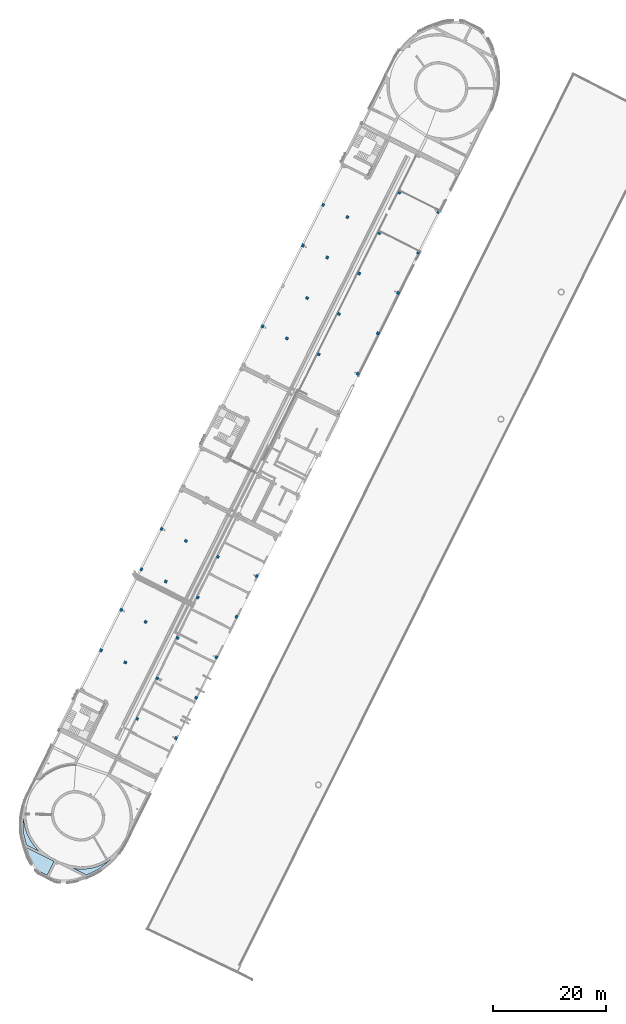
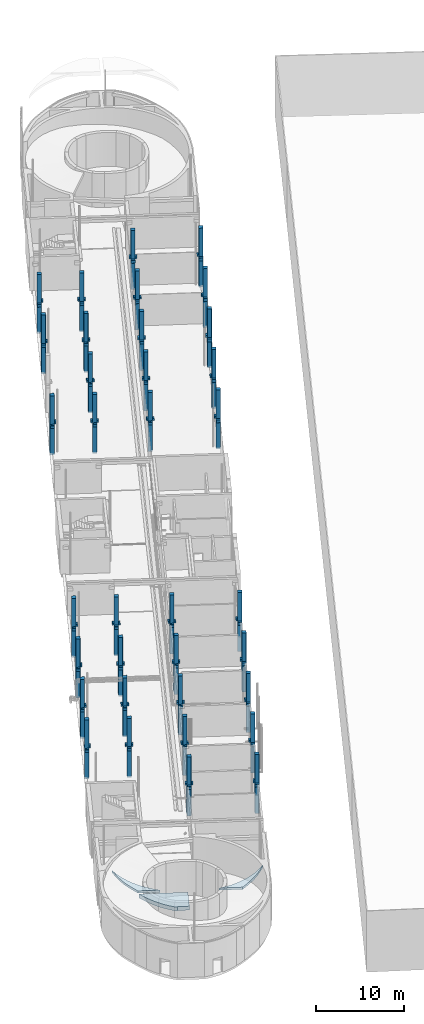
# One storey, part 1 of 91: 35 columns, 3 slabs.
"""IFC2X3 building model written with IfcOpenShell, lengths in metres."""

from ifc_helpers import new_model, entity, si_unit, converted_unit, derived_unit, direction, frame, frame_2d, origin, place, context, subcontext, project, spatial, polyline, circle_curve, parameter, trimmed, segment, composite_curve, outline, extrude, faceted_brep, source, transform, mapped, material, layer, layer_set, layer_usage, type_object, type_shapes, element, save


model = new_model("IFC2X3")

# Units and contexts
model_context = context("Model", 3, precision=1e-05, world=origin(), true_north=direction((0.894925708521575, 0.446215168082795)))
context_of_model = context(None, 3, precision=1e-05, world=origin(), true_north=direction((0.894925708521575, 0.446215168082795)))
body_context = subcontext(model_context, "Body", "Model", "MODEL_VIEW")
ifc_project = project(units=[si_unit("LENGTHUNIT", "METRE"), si_unit("AREAUNIT", "SQUARE_METRE"), si_unit("VOLUMEUNIT", "CUBIC_METRE"), converted_unit("PLANEANGLEUNIT", "DEGREE", entity("IfcRatioMeasure", 0.0174532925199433), si_unit("PLANEANGLEUNIT", "RADIAN"), dimensions=[0, 0, 0, 0, 0, 0, 0]), si_unit("MASSUNIT", "GRAM", prefix="KILO"), si_unit("TIMEUNIT", "SECOND"), si_unit("FREQUENCYUNIT", "HERTZ"), si_unit("THERMODYNAMICTEMPERATUREUNIT", "DEGREE_CELSIUS"), derived_unit("THERMALTRANSMITTANCEUNIT", [(si_unit("MASSUNIT", "GRAM", prefix="KILO"), 1), (si_unit("THERMODYNAMICTEMPERATUREUNIT", "KELVIN"), -1), (si_unit("TIMEUNIT", "SECOND"), -3)]), derived_unit("VOLUMETRICFLOWRATEUNIT", [(si_unit("LENGTHUNIT", "METRE"), 3), (si_unit("TIMEUNIT", "SECOND"), -1)]), si_unit("ELECTRICCURRENTUNIT", "AMPERE"), si_unit("ELECTRICVOLTAGEUNIT", "VOLT"), si_unit("POWERUNIT", "WATT"), si_unit("FORCEUNIT", "NEWTON", prefix="KILO"), si_unit("ILLUMINANCEUNIT", "LUX"), si_unit("LUMINOUSFLUXUNIT", "LUMEN"), si_unit("LUMINOUSINTENSITYUNIT", "CANDELA"), si_unit("PRESSUREUNIT", "PASCAL")], contexts=[model_context, context_of_model])

# Site, building, storey
site_placement = place(None, frame((218.228324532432, 584.720189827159, 0.0), z_axis=(0.0, 0.0, 1.0), x_axis=(0.446215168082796, 0.894925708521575, 0.0)))
site = spatial("IfcSite", under=ifc_project, at=site_placement, Name="Default", CompositionType="ELEMENT")
building_placement = place(site_placement, origin())
building = spatial("IfcBuilding", under=site, at=building_placement, CompositionType="ELEMENT")
storey_placement = place(building_placement, origin())
storey = spatial("IfcBuildingStorey", under=building, at=storey_placement, Name="0 - Piano Terra", CompositionType="ELEMENT", Elevation=0.0)

# Columns
ifc_material_1 = material(Name="Calcestruzzo - Calcestruzzo prefabbricato - 35 MPa")
column_type_1 = type_object("IfcColumnType", Name="500x500-1 livello centrale", PredefinedType="COLUMN", material=ifc_material_1)
shared_shape_1 = source(origin(), body_context, "Body", "Brep", [
    faceted_brep([(-0.535000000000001, 0.234999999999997, 4.03), (-0.249999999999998, 0.234999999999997, 4.03), (-0.249999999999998, 0.234999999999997, 3.63000000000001), (-0.535000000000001, 0.234999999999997, 3.63000000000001), (-0.550000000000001, 0.234999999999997, 3.64500000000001), (-0.550000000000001, 0.234999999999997, 4.01500000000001), (-0.535000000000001, -0.235000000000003, 4.03), (-0.550000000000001, -0.235000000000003, 4.01500000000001), (-0.550000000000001, -0.235000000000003, 3.64500000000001), (-0.535000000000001, -0.235000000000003, 3.63000000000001), (-0.249999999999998, -0.235000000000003, 3.63000000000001), (-0.249999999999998, -0.235000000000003, 4.03)], [[[0, 1, 2, 3, 4, 5]], [[6, 7, 8, 9, 10, 11]], [[1, 0, 6, 11]], [[2, 1, 11, 10]], [[3, 2, 10, 9]], [[4, 3, 9, 8]], [[5, 4, 8, 7]], [[0, 5, 7, 6]]]),
    faceted_brep([(-0.234999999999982, -0.435000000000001, 4.29), (-0.234999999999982, -0.249999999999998, 4.29), (-0.234999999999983, -0.249999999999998, 4.03), (-0.234999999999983, -0.435000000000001, 4.03), (-0.234999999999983, -0.450000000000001, 4.045), (-0.234999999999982, -0.450000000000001, 4.275), (0.235000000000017, -0.435000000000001, 4.29), (0.235000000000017, -0.450000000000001, 4.275), (0.235000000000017, -0.450000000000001, 4.045), (0.235000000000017, -0.435000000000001, 4.03), (0.235000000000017, -0.249999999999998, 4.03), (0.235000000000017, -0.249999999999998, 4.29)], [[[0, 1, 2, 3, 4, 5]], [[6, 7, 8, 9, 10, 11]], [[1, 0, 6, 11]], [[2, 1, 11, 10]], [[3, 2, 10, 9]], [[4, 3, 9, 8]], [[5, 4, 8, 7]], [[0, 5, 7, 6]]]),
    faceted_brep([(0.234999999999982, 0.435000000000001, 4.29), (0.234999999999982, 0.249999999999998, 4.29), (0.234999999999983, 0.249999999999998, 4.03000000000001), (0.234999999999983, 0.435000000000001, 4.03000000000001), (0.234999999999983, 0.450000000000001, 4.04500000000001), (0.234999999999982, 0.450000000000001, 4.27500000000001), (-0.235000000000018, 0.435000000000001, 4.29), (-0.235000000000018, 0.450000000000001, 4.275), (-0.235000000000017, 0.450000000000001, 4.04500000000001), (-0.235000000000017, 0.435000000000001, 4.03000000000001), (-0.235000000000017, 0.249999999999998, 4.03000000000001), (-0.235000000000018, 0.249999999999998, 4.29)], [[[0, 1, 2, 3, 4, 5]], [[6, 7, 8, 9, 10, 11]], [[1, 0, 6, 11]], [[2, 1, 11, 10]], [[3, 2, 10, 9]], [[4, 3, 9, 8]], [[5, 4, 8, 7]], [[0, 5, 7, 6]]]),
    faceted_brep([(0.535000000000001, -0.234999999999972, 4.03), (0.249999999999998, -0.234999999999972, 4.03), (0.249999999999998, -0.234999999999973, 3.63), (0.535000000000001, -0.234999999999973, 3.63), (0.550000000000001, -0.234999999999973, 3.645), (0.550000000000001, -0.234999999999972, 4.015), (0.535000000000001, 0.235000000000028, 4.03), (0.550000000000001, 0.235000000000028, 4.015), (0.550000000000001, 0.235000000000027, 3.645), (0.535000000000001, 0.235000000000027, 3.63), (0.249999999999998, 0.235000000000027, 3.63), (0.249999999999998, 0.235000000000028, 4.03)], [[[0, 1, 2, 3, 4, 5]], [[6, 7, 8, 9, 10, 11]], [[1, 0, 6, 11]], [[2, 1, 11, 10]], [[3, 2, 10, 9]], [[4, 3, 9, 8]], [[5, 4, 8, 7]], [[0, 5, 7, 6]]]),
    faceted_brep([(0.235000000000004, 0.25, 7.95), (-0.234999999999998, 0.25, 7.95), (-0.25, 0.234999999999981, 7.95), (-0.25, -0.234999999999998, 7.95), (-0.234999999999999, -0.25, 7.95), (0.235, -0.25, 7.95), (0.25, -0.234999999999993, 7.95), (0.25, 0.234999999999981, 7.95), (0.235000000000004, 0.25, -0.2), (0.25, 0.234999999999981, -0.2), (0.25, -0.234999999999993, -0.2), (0.235, -0.25, -0.2), (-0.234999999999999, -0.25, -0.2), (-0.25, -0.234999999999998, -0.2), (-0.25, 0.234999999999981, -0.2), (-0.234999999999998, 0.25, -0.2)], [[[0, 1, 2, 3, 4, 5, 6, 7]], [[8, 9, 10, 11, 12, 13, 14, 15]], [[1, 0, 8, 15]], [[2, 1, 15, 14]], [[3, 2, 14, 13]], [[4, 3, 13, 12]], [[5, 4, 12, 11]], [[6, 5, 11, 10]], [[7, 6, 10, 9]], [[0, 7, 9, 8]]]),
])
type_shapes(column_type_1, [shared_shape_1])
for number, where, name in (
    (1, (-44.8506659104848, 1.04892100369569, 0.0), "Prefabbricati-Pilastro rettangolare con modiglioni a più strati:500x500-1 livello centrale"),
    (2, (-36.847852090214, 1.04892100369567, 0.0), "Prefabbricati-Pilastro rettangolare con modiglioni a più strati:500x500-1 livello centrale"),
    (3, (-28.8422204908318, 1.04892100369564, 0.0), "Prefabbricati-Pilastro rettangolare con modiglioni a più strati:500x500-1 livello centrale"),
    (4, (-20.8386212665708, 1.04892100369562, 0.0), "Prefabbricati-Pilastro rettangolare con modiglioni a più strati:500x500-1 livello centrale"),
    (5, (19.1758295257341, 1.04892100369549, 0.0), "Prefabbricati-Pilastro rettangolare con modiglioni a più strati:500x500-1 livello centrale"),
    (6, (27.1690451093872, 1.04892100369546, 0.0), "Prefabbricati-Pilastro rettangolare con modiglioni a più strati:500x500-1 livello centrale"),
    (7, (35.1664961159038, 1.04892100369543, 0.0), "Prefabbricati-Pilastro rettangolare con modiglioni a più strati:500x500-1 livello centrale"),
    (8, (43.1596023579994, 1.04892100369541, 0.0), "Prefabbricati-Pilastro rettangolare con modiglioni a più strati:500x500-1 livello centrale"),
):
    element("IfcColumn", number, at=place(storey_placement, frame(where)), inside=storey, type_object=column_type_1, material=ifc_material_1, Name=name, ObjectType="500x500-1 livello centrale", context=body_context, shape_type="MappedRepresentation", body=[
        mapped(shared_shape_1, transform((0.0, 0.0, 0.0), scale=1.0)),
    ])
column_type_2 = type_object("IfcColumnType", Name="520x500-1 livello laterale", PredefinedType="COLUMN", material=ifc_material_1)
shared_shape_2 = source(origin(), body_context, "Body", "Brep", [
    faceted_brep([(-0.545000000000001, -0.234999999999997, 4.03), (-0.560000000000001, -0.234999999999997, 4.01500000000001), (-0.560000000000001, -0.234999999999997, 3.64500000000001), (-0.545000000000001, -0.234999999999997, 3.63000000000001), (-0.259999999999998, -0.234999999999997, 3.63000000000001), (-0.259999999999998, -0.234999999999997, 4.03), (-0.545000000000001, 0.235000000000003, 4.03), (-0.560000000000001, 0.235000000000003, 4.01500000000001), (-0.259999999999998, 0.235000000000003, 4.03), (-0.259999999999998, 0.235000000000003, 3.63000000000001), (-0.545000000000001, 0.235000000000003, 3.63000000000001), (-0.560000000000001, 0.235000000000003, 3.64500000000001)], [[[0, 1, 2, 3, 4, 5]], [[0, 6, 7, 1]], [[6, 8, 9, 10, 11, 7]], [[5, 8, 6, 0]], [[4, 9, 8, 5]], [[3, 10, 9, 4]], [[2, 11, 10, 3]], [[1, 7, 11, 2]]]),
    faceted_brep([(0.244999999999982, -0.435000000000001, 4.29), (0.244999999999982, -0.450000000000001, 4.27500000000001), (0.244999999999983, -0.450000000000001, 4.04500000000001), (0.244999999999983, -0.435000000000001, 4.03000000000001), (0.244999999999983, -0.249999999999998, 4.03000000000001), (0.244999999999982, -0.249999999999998, 4.29), (-0.245000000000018, -0.435000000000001, 4.29), (-0.245000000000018, -0.249999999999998, 4.29), (-0.245000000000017, -0.249999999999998, 4.03000000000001), (-0.245000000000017, -0.435000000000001, 4.03000000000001), (-0.245000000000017, -0.450000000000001, 4.04500000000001), (-0.245000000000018, -0.450000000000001, 4.275)], [[[0, 1, 2, 3, 4, 5]], [[6, 7, 8, 9, 10, 11]], [[5, 7, 6, 0]], [[4, 8, 7, 5]], [[3, 9, 8, 4]], [[2, 10, 9, 3]], [[1, 11, 10, 2]], [[0, 6, 11, 1]]]),
    faceted_brep([(0.545000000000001, 0.234999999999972, 4.03), (0.560000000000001, 0.234999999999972, 4.015), (0.560000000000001, 0.234999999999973, 3.645), (0.545000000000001, 0.234999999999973, 3.63), (0.259999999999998, 0.234999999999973, 3.63), (0.259999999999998, 0.234999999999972, 4.03), (0.545000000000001, -0.235000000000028, 4.03), (0.560000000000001, -0.235000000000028, 4.015), (0.259999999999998, -0.235000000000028, 4.03), (0.259999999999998, -0.235000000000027, 3.63), (0.545000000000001, -0.235000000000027, 3.63), (0.560000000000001, -0.235000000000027, 3.645)], [[[0, 1, 2, 3, 4, 5]], [[0, 6, 7, 1]], [[6, 8, 9, 10, 11, 7]], [[5, 8, 6, 0]], [[4, 9, 8, 5]], [[3, 10, 9, 4]], [[2, 11, 10, 3]], [[1, 7, 11, 2]]]),
    faceted_brep([(0.245000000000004, -0.25, 7.95), (0.26, -0.234999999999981, 7.95), (0.26, 0.234999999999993, 7.95), (0.245000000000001, 0.25, 7.95), (-0.244999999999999, 0.25, 7.95), (-0.26, 0.234999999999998, 7.95), (-0.26, -0.234999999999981, 7.95), (-0.244999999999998, -0.25, 7.95), (0.245000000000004, -0.25, -0.2), (-0.244999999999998, -0.25, -0.2), (-0.26, -0.234999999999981, -0.2), (-0.26, 0.234999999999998, -0.2), (-0.244999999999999, 0.25, -0.2), (0.245000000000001, 0.25, -0.2), (0.26, 0.234999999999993, -0.2), (0.26, -0.234999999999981, -0.2)], [[[0, 1, 2, 3, 4, 5, 6, 7]], [[8, 9, 10, 11, 12, 13, 14, 15]], [[7, 9, 8, 0]], [[6, 10, 9, 7]], [[5, 11, 10, 6]], [[4, 12, 11, 5]], [[3, 13, 12, 4]], [[2, 14, 13, 3]], [[1, 15, 14, 2]], [[0, 8, 15, 1]]]),
])
type_shapes(column_type_2, [shared_shape_2])
for number, where, name in (
    (9, (-44.8506659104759, 5.86892100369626, 0.0), "Prefabbricati-Pilastro rettangolare con modiglioni a più strati:520x500-1 livello laterale"),
    (10, (-36.8478520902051, 5.86892100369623, 0.0), "Prefabbricati-Pilastro rettangolare con modiglioni a più strati:520x500-1 livello laterale"),
    (11, (-28.8422204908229, 5.86892100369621, 0.0), "Prefabbricati-Pilastro rettangolare con modiglioni a più strati:520x500-1 livello laterale"),
    (12, (-20.8386212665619, 5.86892100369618, 0.0), "Prefabbricati-Pilastro rettangolare con modiglioni a più strati:520x500-1 livello laterale"),
    (13, (19.1758295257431, 5.86892100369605, 0.0), "Prefabbricati-Pilastro rettangolare con modiglioni a più strati:520x500-1 livello laterale"),
    (14, (35.1664961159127, 5.868921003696, 0.0), "Prefabbricati-Pilastro rettangolare con modiglioni a più strati:520x500-1 livello laterale"),
    (15, (43.1596023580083, 5.86892100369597, 0.0), "Prefabbricati-Pilastro rettangolare con modiglioni a più strati:520x500-1 livello laterale"),
):
    element("IfcColumn", number, at=place(storey_placement, frame(where)), inside=storey, type_object=column_type_2, material=ifc_material_1, Name=name, ObjectType="520x500-1 livello laterale", context=body_context, shape_type="MappedRepresentation", body=[
        mapped(shared_shape_2, transform((0.0, 0.0, 0.0), scale=1.0)),
    ])
column_type_3 = type_object("IfcColumnType", Name="520x500-1 livello laterale", PredefinedType="COLUMN", material=ifc_material_1)
shared_shape_3 = source(origin(), body_context, "Body", "Brep", [
    faceted_brep([(-0.545000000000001, 0.234999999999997, 4.03), (-0.259999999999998, 0.234999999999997, 4.03), (-0.259999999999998, 0.234999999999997, 3.63000000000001), (-0.545000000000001, 0.234999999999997, 3.63000000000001), (-0.560000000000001, 0.234999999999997, 3.64500000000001), (-0.560000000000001, 0.234999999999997, 4.01500000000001), (-0.560000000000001, -0.235000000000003, 4.01500000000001), (-0.545000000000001, -0.235000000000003, 4.03), (-0.560000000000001, -0.235000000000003, 3.64500000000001), (-0.545000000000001, -0.235000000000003, 3.63000000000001), (-0.259999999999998, -0.235000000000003, 3.63000000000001), (-0.259999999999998, -0.235000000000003, 4.03)], [[[0, 1, 2, 3, 4, 5]], [[0, 5, 6, 7]], [[7, 6, 8, 9, 10, 11]], [[1, 0, 7, 11]], [[2, 1, 11, 10]], [[3, 2, 10, 9]], [[4, 3, 9, 8]], [[5, 4, 8, 6]]]),
    faceted_brep([(0.244999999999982, 0.435000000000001, 4.29), (0.244999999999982, 0.249999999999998, 4.29), (0.244999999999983, 0.249999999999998, 4.03000000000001), (0.244999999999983, 0.435000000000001, 4.03000000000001), (0.244999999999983, 0.450000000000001, 4.04500000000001), (0.244999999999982, 0.450000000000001, 4.27500000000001), (-0.245000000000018, 0.435000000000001, 4.29), (-0.245000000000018, 0.450000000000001, 4.275), (-0.245000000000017, 0.450000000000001, 4.04500000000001), (-0.245000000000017, 0.435000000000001, 4.03000000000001), (-0.245000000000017, 0.249999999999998, 4.03000000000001), (-0.245000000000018, 0.249999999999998, 4.29)], [[[0, 1, 2, 3, 4, 5]], [[6, 7, 8, 9, 10, 11]], [[1, 0, 6, 11]], [[2, 1, 11, 10]], [[3, 2, 10, 9]], [[4, 3, 9, 8]], [[5, 4, 8, 7]], [[0, 5, 7, 6]]]),
    faceted_brep([(0.545000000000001, -0.234999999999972, 4.03), (0.259999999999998, -0.234999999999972, 4.03), (0.259999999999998, -0.234999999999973, 3.63), (0.545000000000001, -0.234999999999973, 3.63), (0.560000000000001, -0.234999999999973, 3.645), (0.560000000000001, -0.234999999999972, 4.015), (0.560000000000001, 0.235000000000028, 4.015), (0.545000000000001, 0.235000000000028, 4.03), (0.560000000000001, 0.235000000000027, 3.645), (0.545000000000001, 0.235000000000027, 3.63), (0.259999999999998, 0.235000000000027, 3.63), (0.259999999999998, 0.235000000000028, 4.03)], [[[0, 1, 2, 3, 4, 5]], [[0, 5, 6, 7]], [[7, 6, 8, 9, 10, 11]], [[1, 0, 7, 11]], [[2, 1, 11, 10]], [[3, 2, 10, 9]], [[4, 3, 9, 8]], [[5, 4, 8, 6]]]),
    faceted_brep([(0.245000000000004, 0.25, 7.95), (-0.244999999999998, 0.25, 7.95), (-0.26, 0.234999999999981, 7.95), (-0.26, -0.234999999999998, 7.95), (-0.244999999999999, -0.25, 7.95), (0.245000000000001, -0.25, 7.95), (0.26, -0.234999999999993, 7.95), (0.26, 0.234999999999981, 7.95), (0.245000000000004, 0.25, -0.2), (0.26, 0.234999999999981, -0.2), (0.26, -0.234999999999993, -0.2), (0.245000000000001, -0.25, -0.2), (-0.244999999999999, -0.25, -0.2), (-0.26, -0.234999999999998, -0.2), (-0.26, 0.234999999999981, -0.2), (-0.244999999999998, 0.25, -0.2)], [[[0, 1, 2, 3, 4, 5, 6, 7]], [[8, 9, 10, 11, 12, 13, 14, 15]], [[1, 0, 8, 15]], [[2, 1, 15, 14]], [[3, 2, 14, 13]], [[4, 3, 13, 12]], [[5, 4, 12, 11]], [[6, 5, 11, 10]], [[7, 6, 10, 9]], [[0, 7, 9, 8]]]),
])
type_shapes(column_type_3, [shared_shape_3])
for number, where, name in (
    (16, (-44.8506659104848, -12.9510789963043, 0.0), "Prefabbricati-Pilastro rettangolare con modiglioni a più strati:520x500-1 livello laterale"),
    (17, (-52.8437614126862, -12.9510789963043, 0.0), "Prefabbricati-Pilastro rettangolare con modiglioni a più strati:520x500-1 livello laterale"),
    (18, (-36.8478520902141, -12.9510789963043, 0.0), "Prefabbricati-Pilastro rettangolare con modiglioni a più strati:520x500-1 livello laterale"),
    (19, (-28.8422204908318, -12.9510789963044, 0.0), "Prefabbricati-Pilastro rettangolare con modiglioni a più strati:520x500-1 livello laterale"),
    (20, (-20.8386212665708, -12.9510789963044, 0.0), "Prefabbricati-Pilastro rettangolare con modiglioni a più strati:520x500-1 livello laterale"),
    (21, (19.1758295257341, -12.9510789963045, 0.0), "Prefabbricati-Pilastro rettangolare con modiglioni a più strati:520x500-1 livello laterale"),
    (22, (27.1690451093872, -12.9510789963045, 0.0), "Prefabbricati-Pilastro rettangolare con modiglioni a più strati:520x500-1 livello laterale"),
    (23, (35.1664961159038, -12.9510789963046, 0.0), "Prefabbricati-Pilastro rettangolare con modiglioni a più strati:520x500-1 livello laterale"),
    (24, (43.1596023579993, -12.9510789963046, 0.0), "Prefabbricati-Pilastro rettangolare con modiglioni a più strati:520x500-1 livello laterale"),
    (25, (51.1583430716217, -12.9510789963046, 0.0), "Prefabbricati-Pilastro rettangolare con modiglioni a più strati:520x500-1 livello laterale"),
):
    element("IfcColumn", number, at=place(storey_placement, frame(where)), inside=storey, type_object=column_type_3, material=ifc_material_1, Name=name, ObjectType="520x500-1 livello laterale", context=body_context, shape_type="MappedRepresentation", body=[
        mapped(shared_shape_3, transform((0.0, 0.0, 0.0), scale=1.0)),
    ])
column_type_4 = type_object("IfcColumnType", Name="500x500-1 livello centrale", PredefinedType="COLUMN", material=ifc_material_1)
shared_shape_4 = source(origin(), body_context, "Body", "Brep", [
    faceted_brep([(-0.535000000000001, -0.234999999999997, 4.03), (-0.550000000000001, -0.234999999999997, 4.01500000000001), (-0.550000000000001, -0.234999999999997, 3.64500000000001), (-0.535000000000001, -0.234999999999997, 3.63000000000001), (-0.249999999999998, -0.234999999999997, 3.63000000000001), (-0.249999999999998, -0.234999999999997, 4.03), (-0.535000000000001, 0.235000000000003, 4.03), (-0.249999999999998, 0.235000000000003, 4.03), (-0.249999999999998, 0.235000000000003, 3.63000000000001), (-0.535000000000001, 0.235000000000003, 3.63000000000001), (-0.550000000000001, 0.235000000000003, 3.64500000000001), (-0.550000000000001, 0.235000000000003, 4.01500000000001)], [[[0, 1, 2, 3, 4, 5]], [[6, 7, 8, 9, 10, 11]], [[5, 7, 6, 0]], [[4, 8, 7, 5]], [[3, 9, 8, 4]], [[2, 10, 9, 3]], [[1, 11, 10, 2]], [[0, 6, 11, 1]]]),
    faceted_brep([(-0.234999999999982, 0.435000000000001, 4.29), (-0.234999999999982, 0.450000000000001, 4.275), (-0.234999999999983, 0.450000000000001, 4.045), (-0.234999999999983, 0.435000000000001, 4.03), (-0.234999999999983, 0.249999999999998, 4.03), (-0.234999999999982, 0.249999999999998, 4.29), (0.235000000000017, 0.435000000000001, 4.29), (0.235000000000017, 0.249999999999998, 4.29), (0.235000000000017, 0.249999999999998, 4.03), (0.235000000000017, 0.435000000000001, 4.03), (0.235000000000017, 0.450000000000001, 4.045), (0.235000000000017, 0.450000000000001, 4.275)], [[[0, 1, 2, 3, 4, 5]], [[6, 7, 8, 9, 10, 11]], [[5, 7, 6, 0]], [[4, 8, 7, 5]], [[3, 9, 8, 4]], [[2, 10, 9, 3]], [[1, 11, 10, 2]], [[0, 6, 11, 1]]]),
    faceted_brep([(0.234999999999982, -0.435000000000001, 4.29), (0.234999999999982, -0.450000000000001, 4.27500000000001), (0.234999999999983, -0.450000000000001, 4.04500000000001), (0.234999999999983, -0.435000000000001, 4.03000000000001), (0.234999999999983, -0.249999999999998, 4.03000000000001), (0.234999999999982, -0.249999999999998, 4.29), (-0.235000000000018, -0.435000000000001, 4.29), (-0.235000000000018, -0.249999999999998, 4.29), (-0.235000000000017, -0.249999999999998, 4.03000000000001), (-0.235000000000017, -0.435000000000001, 4.03000000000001), (-0.235000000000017, -0.450000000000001, 4.04500000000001), (-0.235000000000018, -0.450000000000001, 4.275)], [[[0, 1, 2, 3, 4, 5]], [[6, 7, 8, 9, 10, 11]], [[5, 7, 6, 0]], [[4, 8, 7, 5]], [[3, 9, 8, 4]], [[2, 10, 9, 3]], [[1, 11, 10, 2]], [[0, 6, 11, 1]]]),
    faceted_brep([(0.535000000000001, 0.234999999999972, 4.03), (0.550000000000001, 0.234999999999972, 4.015), (0.550000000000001, 0.234999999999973, 3.645), (0.535000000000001, 0.234999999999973, 3.63), (0.249999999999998, 0.234999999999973, 3.63), (0.249999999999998, 0.234999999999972, 4.03), (0.535000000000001, -0.235000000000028, 4.03), (0.249999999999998, -0.235000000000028, 4.03), (0.249999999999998, -0.235000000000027, 3.63), (0.535000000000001, -0.235000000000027, 3.63), (0.550000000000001, -0.235000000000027, 3.645), (0.550000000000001, -0.235000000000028, 4.015)], [[[0, 1, 2, 3, 4, 5]], [[6, 7, 8, 9, 10, 11]], [[5, 7, 6, 0]], [[4, 8, 7, 5]], [[3, 9, 8, 4]], [[2, 10, 9, 3]], [[1, 11, 10, 2]], [[0, 6, 11, 1]]]),
    faceted_brep([(0.235000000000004, -0.25, 7.95), (0.25, -0.234999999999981, 7.95), (0.25, 0.234999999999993, 7.95), (0.235, 0.25, 7.95), (-0.234999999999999, 0.25, 7.95), (-0.25, 0.234999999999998, 7.95), (-0.25, -0.234999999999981, 7.95), (-0.234999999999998, -0.25, 7.95), (0.235000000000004, -0.25, -0.2), (-0.234999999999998, -0.25, -0.2), (-0.25, -0.234999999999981, -0.2), (-0.25, 0.234999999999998, -0.2), (-0.234999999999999, 0.25, -0.2), (0.235, 0.25, -0.2), (0.25, 0.234999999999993, -0.2), (0.25, -0.234999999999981, -0.2)], [[[0, 1, 2, 3, 4, 5, 6, 7]], [[8, 9, 10, 11, 12, 13, 14, 15]], [[7, 9, 8, 0]], [[6, 10, 9, 7]], [[5, 11, 10, 6]], [[4, 12, 11, 5]], [[3, 13, 12, 4]], [[2, 14, 13, 3]], [[1, 15, 14, 2]], [[0, 8, 15, 1]]]),
])
type_shapes(column_type_4, [shared_shape_4])
for number, where, name in (
    (26, (-52.8437614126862, -5.25107899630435, 0.0), "Prefabbricati-Pilastro rettangolare con modiglioni a più strati:500x500-1 livello centrale"),
    (27, (-36.847852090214, -5.2510789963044, 0.0), "Prefabbricati-Pilastro rettangolare con modiglioni a più strati:500x500-1 livello centrale"),
    (28, (-28.8422204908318, -5.25107899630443, 0.0), "Prefabbricati-Pilastro rettangolare con modiglioni a più strati:500x500-1 livello centrale"),
    (29, (-20.8386212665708, -5.25107899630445, 0.0), "Prefabbricati-Pilastro rettangolare con modiglioni a più strati:500x500-1 livello centrale"),
    (30, (19.1758295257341, -5.25107899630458, 0.0), "Prefabbricati-Pilastro rettangolare con modiglioni a più strati:500x500-1 livello centrale"),
    (31, (27.1690451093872, -5.25107899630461, 0.0), "Prefabbricati-Pilastro rettangolare con modiglioni a più strati:500x500-1 livello centrale"),
    (32, (35.1664961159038, -5.25107899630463, 0.0), "Prefabbricati-Pilastro rettangolare con modiglioni a più strati:500x500-1 livello centrale"),
    (33, (43.1596023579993, -5.25107899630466, 0.0), "Prefabbricati-Pilastro rettangolare con modiglioni a più strati:500x500-1 livello centrale"),
    (34, (51.1583430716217, -5.25107899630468, 0.0), "Prefabbricati-Pilastro rettangolare con modiglioni a più strati:500x500-1 livello centrale"),
    (35, (-44.8506659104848, -5.25107899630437, 0.0), "Prefabbricati-Pilastro rettangolare con modiglioni a più strati:500x500-1 livello centrale"),
):
    element("IfcColumn", number, at=place(storey_placement, frame(where)), inside=storey, type_object=column_type_4, material=ifc_material_1, Name=name, ObjectType="500x500-1 livello centrale", context=body_context, shape_type="MappedRepresentation", body=[
        mapped(shared_shape_4, transform((0.0, 0.0, 0.0), scale=1.0)),
    ])

# Slabs
ifc_material_2 = material(Name="Asfalto, bitume")
ifc_layer_1 = layer(ifc_material_2, 0.01)
ifc_material_3 = material(Name="Sabbia e Calcestruzzo")
ifc_layer_2 = layer(ifc_material_3, 0.18)
ifc_material_4 = material(Name="Calcestruzzo")
ifc_layer_3 = layer(ifc_material_4, 0.35)
ifc_layer_set_1 = layer_set([ifc_layer_1, ifc_layer_2, ifc_layer_3], Name="Pavimento:CA-caldana - 54 cm")
ifc_layer_usage_1 = layer_usage(ifc_layer_set_1, "AXIS3", "POSITIVE", 0.0)
slab_1_placement = place(storey_placement, origin())
element("IfcSlab", 36, at=slab_1_placement, inside=storey, material=ifc_layer_usage_1, Name="Pavimento:CA-caldana - 54 cm", ObjectType="Pavimento:CA-caldana - 54 cm", PredefinedType="FLOOR", context=body_context, shape_type="SweptSolid", body=[
    extrude(outline(composite_curve([segment(polyline([(-1.57642134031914, -2.14403429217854), (1.18357865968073, -2.14403429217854)]), True, "CONTINUOUS"), segment(polyline([(1.18357865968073, -2.14403429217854), (1.18357865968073, -0.764034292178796)]), True, "CONTINUOUS"), segment(polyline([(1.18357865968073, -0.764034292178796), (1.3224420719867, -0.764034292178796)]), True, "CONTINUOUS"), segment(trimmed(circle_curve(frame_2d((-7.31826253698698, -3.72295804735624), x_axis=(0.946066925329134, 0.323971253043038)), 9.13329107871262), [parameter(0.0)], [parameter(23.1515763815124)], True, "PARAMETER"), True, "CONTINUOUS"), segment(trimmed(circle_curve(frame_2d((-21.7206598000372, -18.0243265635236), x_axis=(0.719981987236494, 0.693992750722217)), 29.4228237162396), [parameter(0.0)], [parameter(2.84516672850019)], True, "PARAMETER"), True, "CONTINUOUS"), segment(polyline([(-1.57642134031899, 3.4212373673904), (-1.57642134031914, -2.14403429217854)]), True, "CONTINUOUS")], self_intersect=False)), frame((-83.5164011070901, -1.20704470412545, 9.49), z_axis=(0.0, 0.0, -1.0), x_axis=(-1.0, 0.0, 0.0)), (0.0, 0.0, 1.0), 0.54),
])
ifc_layer_4 = layer(ifc_material_4, 0.3)
ifc_layer_set_2 = layer_set([ifc_layer_4], Name="Pavimento:In opera Cementizio - 30 cm")
ifc_layer_usage_2 = layer_usage(ifc_layer_set_2, "AXIS3", "POSITIVE", 0.0)
slab_2_placement = place(storey_placement, origin())
element("IfcSlab", 37, at=slab_2_placement, inside=storey, material=ifc_layer_usage_2, Name="Pavimento:In opera Cementizio - 30 cm", ObjectType="Pavimento:In opera Cementizio - 30 cm", PredefinedType="FLOOR", context=body_context, shape_type="SweptSolid", body=[
    extrude(outline(composite_curve([segment(polyline([(0.23080456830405, -1.58262692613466), (2.91507459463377, -1.58262692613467)]), True, "CONTINUOUS"), segment(trimmed(circle_curve(frame_2d((6.27389425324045, 10.1095124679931), x_axis=(-0.276104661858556, -0.961127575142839)), 12.1650233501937), [parameter(354.056396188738)], [parameter(0.0)], True, "PARAMETER"), False, "CONTINUOUS"), segment(trimmed(circle_curve(frame_2d((5.48815921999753, 6.82260704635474), x_axis=(-0.426129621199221, -0.904662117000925)), 8.83708545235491), [parameter(336.03629613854)], [parameter(0.0)], True, "PARAMETER"), False, "CONTINUOUS"), segment(trimmed(circle_curve(frame_2d((6.16244036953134, 7.19871337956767), x_axis=(-0.767365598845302, -0.641209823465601)), 9.59449952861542), [parameter(347.34432889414)], [parameter(0.0)], True, "PARAMETER"), False, "CONTINUOUS"), segment(trimmed(circle_curve(frame_2d((9.29244941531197, 6.75917545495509), x_axis=(-0.94714055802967, -0.320818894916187)), 12.3123127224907), [parameter(0.0)], [parameter(11.9429981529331)], True, "PARAMETER"), True, "CONTINUOUS"), segment(trimmed(circle_curve(frame_2d((12.7640765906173, 9.30686212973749), x_axis=(-0.847025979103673, -0.531551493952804)), 16.6031286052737), [parameter(0.0)], [parameter(8.87528543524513)], True, "PARAMETER"), True, "CONTINUOUS")], self_intersect=False)), frame((-79.9573528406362, -9.81027691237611, 9.64), z_axis=(0.0, 0.0, -1.0), x_axis=(0.0, 1.0, 0.0)), (0.0, 0.0, 1.0), 0.3),
])
ifc_layer_usage_3 = layer_usage(ifc_layer_set_2, "AXIS3", "POSITIVE", 0.0)
slab_3_placement = place(storey_placement, origin())
element("IfcSlab", 38, at=slab_3_placement, inside=storey, material=ifc_layer_usage_3, Name="Pavimento:In opera Cementizio - 30 cm", ObjectType="Pavimento:In opera Cementizio - 30 cm", PredefinedType="FLOOR", context=body_context, shape_type="SweptSolid", body=[
    extrude(outline(composite_curve([segment(polyline([(-2.93521054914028, -1.48777174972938), (-0.411589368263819, -1.48777174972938)]), True, "CONTINUOUS"), segment(trimmed(circle_curve(frame_2d((-21.9554625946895, 18.2564667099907), x_axis=(0.737227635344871, -0.675644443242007)), 29.2228237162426), [parameter(0.0)], [parameter(3.77275222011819)], True, "PARAMETER"), True, "CONTINUOUS"), segment(trimmed(circle_curve(frame_2d((-9.10476491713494, 6.76717389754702), x_axis=(0.825706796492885, -0.564099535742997)), 12.0450089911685), [parameter(0.0)], [parameter(14.8393957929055)], True, "PARAMETER"), True, "CONTINUOUS"), segment(trimmed(circle_curve(frame_2d((-5.88710626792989, 7.21606893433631), x_axis=(0.876459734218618, -0.481475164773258)), 9.28330072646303), [parameter(340.219119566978)], [parameter(0.0)], True, "PARAMETER"), False, "CONTINUOUS"), segment(trimmed(circle_curve(frame_2d((-6.07701845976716, 8.05348356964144), x_axis=(0.63050908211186, -0.776181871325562)), 10.0452232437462), [parameter(339.138331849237)], [parameter(0.0)], True, "PARAMETER"), False, "CONTINUOUS")], self_intersect=False)), frame((-80.0522080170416, 2.72409132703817, 9.64), z_axis=(0.0, 0.0, -1.0), x_axis=(0.0, 1.0, 0.0)), (0.0, 0.0, 1.0), 0.3),
])

save(model, "model.ifc")
